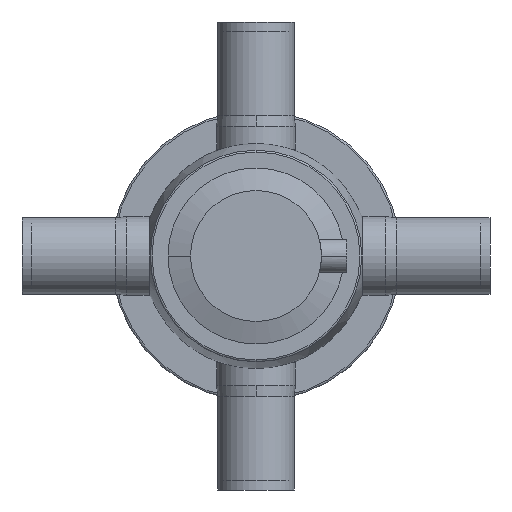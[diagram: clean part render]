
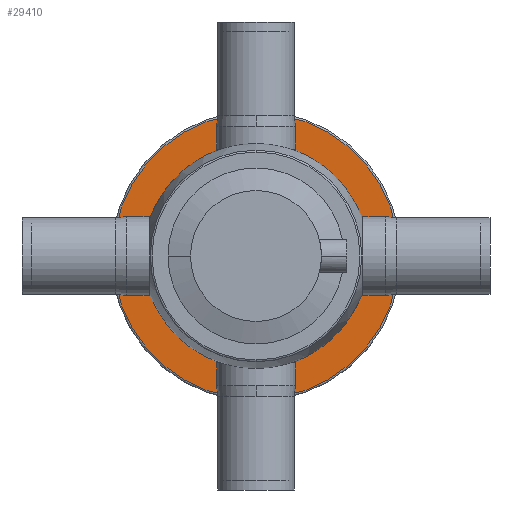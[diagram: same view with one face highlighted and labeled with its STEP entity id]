
A CAD part, front view. The second image highlights one B-rep face of the part: STEP entity #29410.
In plain terms, the highlighted planar face has unit normal (0, -1, 0).
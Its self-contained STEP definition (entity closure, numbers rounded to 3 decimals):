
#28920=CARTESIAN_POINT('',(-59.,-15.,0.)
);
#28930=VERTEX_POINT('',#28920);
#28960=CARTESIAN_POINT('',(0.,-15.,
0.));
#28970=DIRECTION('',(0.,1.,0.));
#28980=DIRECTION('',(1.,0.,0.));
#28990=AXIS2_PLACEMENT_3D('',#28960,#28970,#28980);
#29000=CIRCLE('',#28990,59.);
#29010=CARTESIAN_POINT('',(59.,-15.,0.))
;
#29020=VERTEX_POINT('',#29010);
#29030=EDGE_CURVE('',#28930,#29020,#29000,.T.);
#29160=CARTESIAN_POINT('',(66.7,-15.,0.)
);
#29170=DIRECTION('',(-0.,1.,0.));
#29180=DIRECTION('',(1.,0.,0.));
#29190=AXIS2_PLACEMENT_3D('',#29160,#29170,#29180);
#29200=PLANE('',#29190);
#29210=EDGE_CURVE('',#29020,#28930,#29000,.T.);
#29220=ORIENTED_EDGE('',*,*,#29210,.T.);
#29230=ORIENTED_EDGE('',*,*,#29030,.T.);
#29240=EDGE_LOOP('',(#29230,#29220));
#29250=FACE_BOUND('',#29240,.T.);
#29260=CARTESIAN_POINT('',(0.,-15.,
0.));
#29270=DIRECTION('',(0.,1.,0.));
#29280=DIRECTION('',(1.,0.,0.));
#29290=AXIS2_PLACEMENT_3D('',#29260,#29270,#29280);
#29300=CIRCLE('',#29290,76.5);
#29310=CARTESIAN_POINT('',(-76.5,-15.,0.
));
#29320=VERTEX_POINT('',#29310);
#29330=CARTESIAN_POINT('',(76.5,-15.,0.)
);
#29340=VERTEX_POINT('',#29330);
#29350=EDGE_CURVE('',#29320,#29340,#29300,.T.);
#29360=ORIENTED_EDGE('',*,*,#29350,.F.);
#29370=EDGE_CURVE('',#29340,#29320,#29300,.T.);
#29380=ORIENTED_EDGE('',*,*,#29370,.F.);
#29390=EDGE_LOOP('',(#29380,#29360));
#29400=FACE_OUTER_BOUND('',#29390,.T.);
#29410=ADVANCED_FACE('',(#29250,#29400),#29200,.F.);
